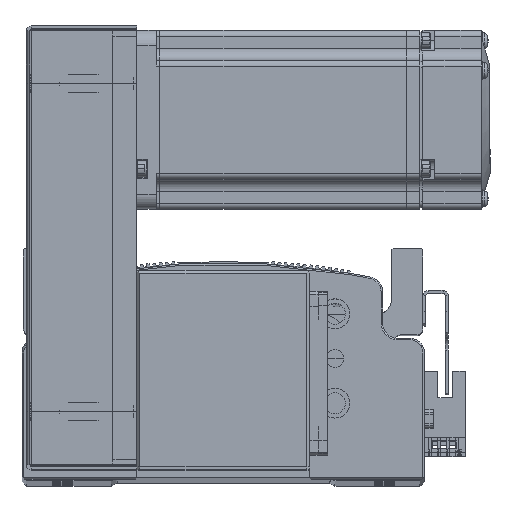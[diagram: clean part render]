
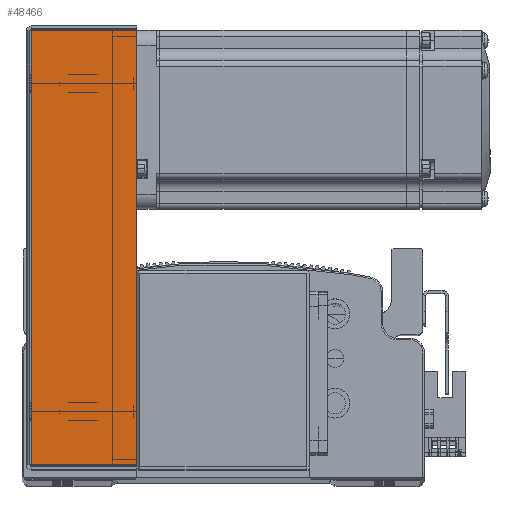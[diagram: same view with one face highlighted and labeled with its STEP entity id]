
A CAD part, top view. The second image highlights one B-rep face of the part: STEP entity #48466.
In plain terms, the highlighted planar face has unit normal (0, 0, 1).
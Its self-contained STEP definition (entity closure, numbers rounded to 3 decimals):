
#18829 = EDGE_LOOP ( 'NONE', ( #64351, #64234, #64313, #64366 ) ) ;
#32113 = FACE_OUTER_BOUND ( 'NONE', #18829, .T. ) ;
#37380 = AXIS2_PLACEMENT_3D ( 'NONE', #39142, #39150, #39204 ) ;
#39142 = CARTESIAN_POINT ( 'NONE',  ( 0., 0., 34.5 ) ) ;
#39150 = DIRECTION ( 'NONE',  ( 0., 0., -1. ) ) ;
#39186 = PLANE ( 'NONE',  #37380 ) ;
#39204 = DIRECTION ( 'NONE',  ( -1., 0., 0. ) ) ;
#43815 = CARTESIAN_POINT ( 'NONE',  ( 0., 36., 34.5 ) ) ;
#43837 = DIRECTION ( 'NONE',  ( -1., 0., 0. ) ) ;
#43885 = CARTESIAN_POINT ( 'NONE',  ( -72.793, 0., 34.5 ) ) ;
#43895 = DIRECTION ( 'NONE',  ( 0., 1., 0. ) ) ;
#43976 = CARTESIAN_POINT ( 'NONE',  ( 72.793, 0., 34.5 ) ) ;
#44024 = DIRECTION ( 'NONE',  ( -1., 0., 0. ) ) ;
#44084 = DIRECTION ( 'NONE',  ( 0., 1., 0. ) ) ;
#44091 = CARTESIAN_POINT ( 'NONE',  ( -74.5, 0.737, 34.5 ) ) ;
#48466 = ADVANCED_FACE ( 'NONE', ( #32113 ), #39186, .F. ) ;
#50391 = CARTESIAN_POINT ( 'NONE',  ( -72.793, 0.737, 34.5 ) ) ;
#50513 = CARTESIAN_POINT ( 'NONE',  ( 72.793, 0.737, 34.5 ) ) ;
#50555 = CARTESIAN_POINT ( 'NONE',  ( 72.793, 36., 34.5 ) ) ;
#50556 = CARTESIAN_POINT ( 'NONE',  ( -72.793, 36., 34.5 ) ) ;
#55032 = LINE ( 'NONE', #43885, #55125 ) ;
#55040 = VECTOR ( 'NONE', #43837, 1000. ) ;
#55076 = LINE ( 'NONE', #43815, #55040 ) ;
#55125 = VECTOR ( 'NONE', #43895, 1000. ) ;
#55155 = LINE ( 'NONE', #44091, #55244 ) ;
#55226 = LINE ( 'NONE', #43976, #55246 ) ;
#55244 = VECTOR ( 'NONE', #44024, 1000. ) ;
#55246 = VECTOR ( 'NONE', #44084, 1000. ) ;
#64234 = ORIENTED_EDGE ( 'NONE', *, *, #77145, .T. ) ;
#64313 = ORIENTED_EDGE ( 'NONE', *, *, #77120, .T. ) ;
#64351 = ORIENTED_EDGE ( 'NONE', *, *, #77147, .F. ) ;
#64366 = ORIENTED_EDGE ( 'NONE', *, *, #77123, .F. ) ;
#75341 = VERTEX_POINT ( 'NONE', #50391 ) ;
#75419 = VERTEX_POINT ( 'NONE', #50556 ) ;
#75423 = VERTEX_POINT ( 'NONE', #50555 ) ;
#75425 = VERTEX_POINT ( 'NONE', #50513 ) ;
#77120 = EDGE_CURVE ( 'NONE', #75423, #75419, #55076, .T. ) ;
#77123 = EDGE_CURVE ( 'NONE', #75341, #75419, #55032, .T. ) ;
#77145 = EDGE_CURVE ( 'NONE', #75425, #75423, #55226, .T. ) ;
#77147 = EDGE_CURVE ( 'NONE', #75425, #75341, #55155, .T. ) ;
